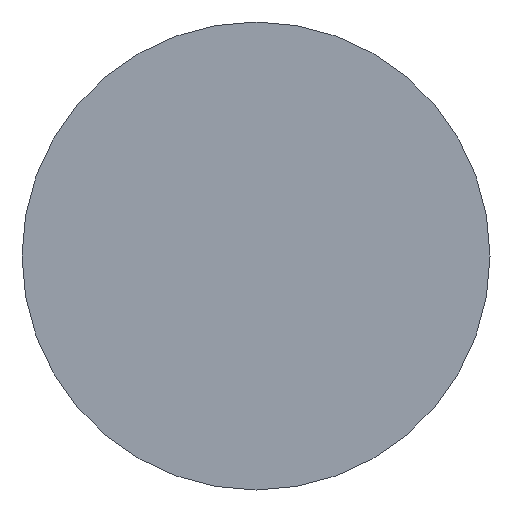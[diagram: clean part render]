
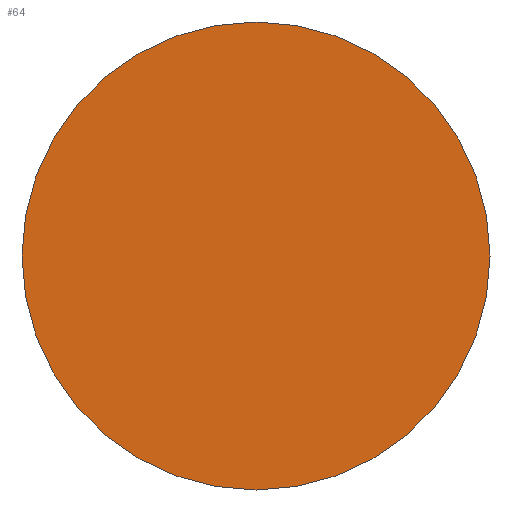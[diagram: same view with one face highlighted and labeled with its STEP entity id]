
A CAD part, front view. The second image highlights one B-rep face of the part: STEP entity #64.
In plain terms, the highlighted planar face has unit normal (0, -1, 0).
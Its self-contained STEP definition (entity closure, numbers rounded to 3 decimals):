
#60 = VERTEX_POINT( '', #148 );
#64 = ADVANCED_FACE( '', ( #152 ), #153, .T. );
#74 = EDGE_CURVE( '', #114, #60, #167, .T. );
#94 = EDGE_CURVE( '', #60, #114, #188, .T. );
#114 = VERTEX_POINT( '', #210 );
#148 = CARTESIAN_POINT( '', ( 0., -18., -10. ) );
#152 = FACE_OUTER_BOUND( '', #240, .T. );
#153 = PLANE( '', #241 );
#167 = CIRCLE( '', #257, 10. );
#188 = CIRCLE( '', #288, 10. );
#210 = CARTESIAN_POINT( '', ( 0., -18., 10. ) );
#240 = EDGE_LOOP( '', ( #340, #341 ) );
#241 = AXIS2_PLACEMENT_3D( '', #342, #343, #344 );
#257 = AXIS2_PLACEMENT_3D( '', #372, #373, #374 );
#288 = AXIS2_PLACEMENT_3D( '', #395, #396, #397 );
#340 = ORIENTED_EDGE( '', *, *, #74, .T. );
#341 = ORIENTED_EDGE( '', *, *, #94, .T. );
#342 = CARTESIAN_POINT( '', ( 0., -18., 5. ) );
#343 = DIRECTION( '', ( 0., -1., 0. ) );
#344 = DIRECTION( '', ( 0., 0., 1. ) );
#372 = CARTESIAN_POINT( '', ( 0., -18., 0. ) );
#373 = DIRECTION( '', ( 0., -1., 0. ) );
#374 = DIRECTION( '', ( 0., 0., 1. ) );
#395 = CARTESIAN_POINT( '', ( 0., -18., 0. ) );
#396 = DIRECTION( '', ( 0., -1., 0. ) );
#397 = DIRECTION( '', ( 0., 0., 1. ) );
